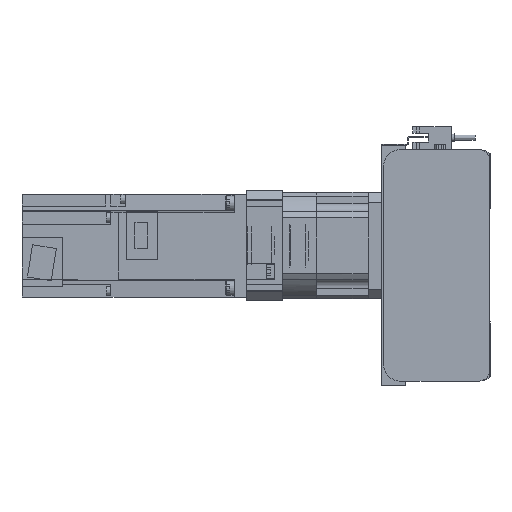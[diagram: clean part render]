
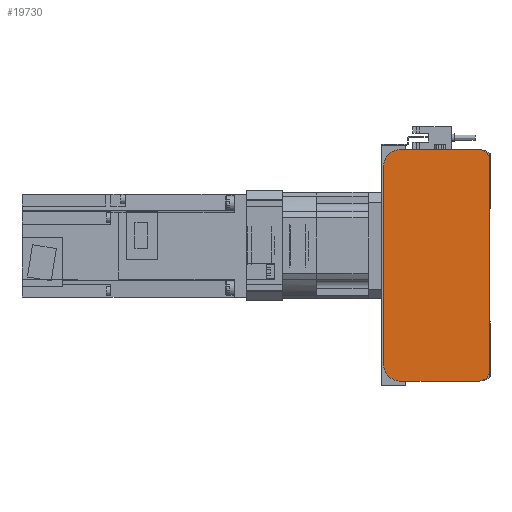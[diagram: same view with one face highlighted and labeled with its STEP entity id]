
A CAD part, left-side view. The second image highlights one B-rep face of the part: STEP entity #19730.
In plain terms, the highlighted planar face has unit normal (-1, 0, 0).
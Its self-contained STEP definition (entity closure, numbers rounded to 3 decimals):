
#1256=CIRCLE('',#21613,5.);
#1257=CIRCLE('',#21616,5.);
#1258=CIRCLE('',#21619,10.);
#1259=CIRCLE('',#21622,10.);
#5857=ORIENTED_EDGE('',*,*,#8933,.F.);
#5858=ORIENTED_EDGE('',*,*,#9090,.F.);
#5859=ORIENTED_EDGE('',*,*,#9082,.F.);
#5860=ORIENTED_EDGE('',*,*,#9080,.F.);
#5861=ORIENTED_EDGE('',*,*,#8719,.F.);
#5862=ORIENTED_EDGE('',*,*,#9079,.F.);
#5863=ORIENTED_EDGE('',*,*,#9077,.F.);
#5864=ORIENTED_EDGE('',*,*,#9075,.F.);
#5865=ORIENTED_EDGE('',*,*,#9073,.F.);
#5866=ORIENTED_EDGE('',*,*,#9071,.F.);
#8719=EDGE_CURVE('',#10838,#10839,#12582,.T.);
#8933=EDGE_CURVE('',#10939,#10940,#12725,.T.);
#9071=EDGE_CURVE('',#10940,#11023,#12854,.T.);
#9073=EDGE_CURVE('',#11023,#11024,#1256,.T.);
#9075=EDGE_CURVE('',#11024,#11025,#12857,.T.);
#9077=EDGE_CURVE('',#11025,#11026,#1257,.T.);
#9079=EDGE_CURVE('',#11026,#10838,#12860,.T.);
#9080=EDGE_CURVE('',#10839,#11027,#1258,.T.);
#9082=EDGE_CURVE('',#11027,#11028,#12862,.T.);
#9090=EDGE_CURVE('',#11028,#10939,#1259,.T.);
#10838=VERTEX_POINT('',#32424);
#10839=VERTEX_POINT('',#32426);
#10939=VERTEX_POINT('',#32815);
#10940=VERTEX_POINT('',#32817);
#11023=VERTEX_POINT('',#33094);
#11024=VERTEX_POINT('',#33098);
#11025=VERTEX_POINT('',#33102);
#11026=VERTEX_POINT('',#33106);
#11027=VERTEX_POINT('',#33112);
#11028=VERTEX_POINT('',#33116);
#12582=LINE('',#32425,#14325);
#12725=LINE('',#32816,#14468);
#12854=LINE('',#33093,#14597);
#12857=LINE('',#33101,#14600);
#12860=LINE('',#33109,#14603);
#12862=LINE('',#33115,#14605);
#14325=VECTOR('',#26148,1000.);
#14468=VECTOR('',#26585,1000.);
#14597=VECTOR('',#26844,1000.);
#14600=VECTOR('',#26853,1000.);
#14603=VECTOR('',#26862,1000.);
#14605=VECTOR('',#26870,1000.);
#16023=EDGE_LOOP('',(#5857,#5858,#5859,#5860,#5861,#5862,#5863,#5864,#5865,
#5866));
#17732=FACE_BOUND('',#16023,.T.);
#18695=PLANE('',#21623);
#19730=ADVANCED_FACE('',(#17732),#18695,.F.);
#21613=AXIS2_PLACEMENT_3D('',#33097,#26848,#26849);
#21616=AXIS2_PLACEMENT_3D('',#33105,#26857,#26858);
#21619=AXIS2_PLACEMENT_3D('',#33111,#26865,#26866);
#21622=AXIS2_PLACEMENT_3D('',#33129,#26880,#26881);
#21623=AXIS2_PLACEMENT_3D('',#33130,#26882,#26883);
#26148=DIRECTION('',(0.,1.,0.));
#26585=DIRECTION('',(0.,-1.,0.));
#26844=DIRECTION('',(0.,-0.942,-0.336));
#26848=DIRECTION('',(1.,0.,0.));
#26849=DIRECTION('',(0.,0.,-1.));
#26853=DIRECTION('',(0.,0.,-1.));
#26857=DIRECTION('',(1.,0.,0.));
#26858=DIRECTION('',(0.,0.,-1.));
#26862=DIRECTION('',(0.,0.942,-0.336));
#26865=DIRECTION('',(1.,0.,0.));
#26866=DIRECTION('',(0.,0.,-1.));
#26870=DIRECTION('',(0.,0.,1.));
#26880=DIRECTION('',(1.,0.,0.));
#26881=DIRECTION('',(0.,0.,-1.));
#26882=DIRECTION('',(1.,0.,0.));
#26883=DIRECTION('',(0.,0.,-1.));
#32424=CARTESIAN_POINT('',(-10.,6.,-67.5));
#32425=CARTESIAN_POINT('',(-10.,6.,-67.5));
#32426=CARTESIAN_POINT('',(-10.,52.,-67.5));
#32815=CARTESIAN_POINT('',(-10.,52.,67.5));
#32816=CARTESIAN_POINT('',(-10.,52.,67.5));
#32817=CARTESIAN_POINT('',(-10.,6.,67.5));
#33093=CARTESIAN_POINT('',(-10.,6.,67.5));
#33094=CARTESIAN_POINT('',(-10.,3.822,66.724));
#33097=CARTESIAN_POINT('',(-10.,5.5,62.014));
#33098=CARTESIAN_POINT('',(-10.,0.5,62.014));
#33101=CARTESIAN_POINT('',(-10.,0.5,62.014));
#33102=CARTESIAN_POINT('',(-10.,0.5,-62.014));
#33105=CARTESIAN_POINT('',(-10.,5.5,-62.014));
#33106=CARTESIAN_POINT('',(-10.,3.822,-66.724));
#33109=CARTESIAN_POINT('',(-10.,3.822,-66.724));
#33111=CARTESIAN_POINT('',(-10.,52.,-57.5));
#33112=CARTESIAN_POINT('',(-10.,62.,-57.5));
#33115=CARTESIAN_POINT('',(-10.,62.,-57.5));
#33116=CARTESIAN_POINT('',(-10.,62.,57.5));
#33129=CARTESIAN_POINT('',(-10.,52.,57.5));
#33130=CARTESIAN_POINT('',(-10.,5.5,62.014));
